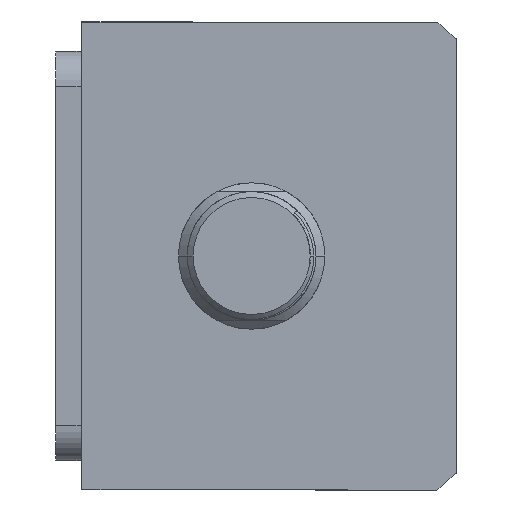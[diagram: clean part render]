
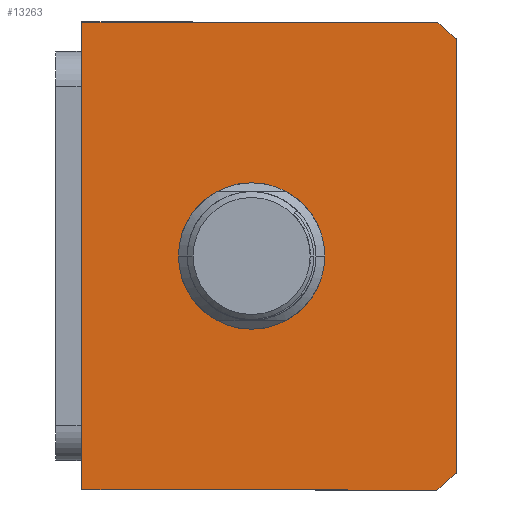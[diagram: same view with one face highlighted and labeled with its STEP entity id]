
A CAD part, front view. The second image highlights one B-rep face of the part: STEP entity #13263.
In plain terms, the highlighted planar face has unit normal (0, -1, 0) as drawn and (0, 0, -1) by its records, which use the part's own axes.
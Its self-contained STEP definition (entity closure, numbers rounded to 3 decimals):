
#417 = ORIENTED_EDGE ( 'NONE', *, *, #8394, .F. ) ;
#492 = EDGE_CURVE ( 'NONE', #10972, #14606, #1382, .T. ) ;
#854 = CARTESIAN_POINT ( 'NONE',  ( 37.094, -32., 0. ) ) ;
#878 = CARTESIAN_POINT ( 'NONE',  ( -40., 32., 0. ) ) ;
#1213 = DIRECTION ( 'NONE',  ( 0., -1., 0. ) ) ;
#1382 = LINE ( 'NONE', #15050, #4989 ) ;
#1586 = AXIS2_PLACEMENT_3D ( 'NONE', #12572, #4344, #13959 ) ;
#2137 = VERTEX_POINT ( 'NONE', #854 ) ;
#2349 = DIRECTION ( 'NONE',  ( 1., 0., 0. ) ) ;
#2425 = LINE ( 'NONE', #878, #9275 ) ;
#3155 = CARTESIAN_POINT ( 'NONE',  ( -40., -28.639, 0. ) ) ;
#3187 = CARTESIAN_POINT ( 'NONE',  ( -37.094, -32., 0. ) ) ;
#3334 = CARTESIAN_POINT ( 'NONE',  ( 0., 3., 0. ) ) ;
#3348 = EDGE_LOOP ( 'NONE', ( #417, #8195, #10201, #12255, #8104, #6005 ) ) ;
#3933 = EDGE_CURVE ( 'NONE', #6528, #10663, #5692, .T. ) ;
#4203 = PLANE ( 'NONE',  #7407 ) ;
#4344 = DIRECTION ( 'NONE',  ( 0., 0., 1. ) ) ;
#4690 = DIRECTION ( 'NONE',  ( 1., 0., 0. ) ) ;
#4989 = VECTOR ( 'NONE', #1213, 1000. ) ;
#4994 = CIRCLE ( 'NONE', #7419, 51. ) ;
#5407 = EDGE_CURVE ( 'NONE', #15996, #2137, #6305, .T. ) ;
#5412 = EDGE_LOOP ( 'NONE', ( #14639, #13748 ) ) ;
#5692 = CIRCLE ( 'NONE', #6740, 12.5 ) ;
#5950 = CARTESIAN_POINT ( 'NONE',  ( 0., 3., 0. ) ) ;
#6005 = ORIENTED_EDGE ( 'NONE', *, *, #5407, .F. ) ;
#6305 = LINE ( 'NONE', #10555, #16816 ) ;
#6528 = VERTEX_POINT ( 'NONE', #8505 ) ;
#6740 = AXIS2_PLACEMENT_3D ( 'NONE', #5950, #15529, #7315 ) ;
#6803 = EDGE_CURVE ( 'NONE', #15453, #10972, #2425, .T. ) ;
#6960 = DIRECTION ( 'NONE',  ( 1., 0., 0. ) ) ;
#7052 = CARTESIAN_POINT ( 'NONE',  ( -12.5, 3., 0. ) ) ;
#7228 = CARTESIAN_POINT ( 'NONE',  ( 40., 32., 0. ) ) ;
#7315 = DIRECTION ( 'NONE',  ( 1., 0., 0. ) ) ;
#7407 = AXIS2_PLACEMENT_3D ( 'NONE', #12377, #15177, #6960 ) ;
#7419 = AXIS2_PLACEMENT_3D ( 'NONE', #3334, #12921, #4690 ) ;
#7592 = CARTESIAN_POINT ( 'NONE',  ( 0., 3., 0. ) ) ;
#7881 = VECTOR ( 'NONE', #16001, 1000. ) ;
#8104 = ORIENTED_EDGE ( 'NONE', *, *, #8520, .F. ) ;
#8195 = ORIENTED_EDGE ( 'NONE', *, *, #492, .F. ) ;
#8394 = EDGE_CURVE ( 'NONE', #14606, #15996, #4994, .T. ) ;
#8455 = CIRCLE ( 'NONE', #12933, 12.5 ) ;
#8505 = CARTESIAN_POINT ( 'NONE',  ( 12.5, 3., 0. ) ) ;
#8520 = EDGE_CURVE ( 'NONE', #2137, #17041, #11454, .T. ) ;
#8821 = FACE_BOUND ( 'NONE', #5412, .T. ) ;
#8978 = DIRECTION ( 'NONE',  ( 1., 0., 0. ) ) ;
#9275 = VECTOR ( 'NONE', #14846, 1000. ) ;
#9743 = FACE_OUTER_BOUND ( 'NONE', #3348, .T. ) ;
#10201 = ORIENTED_EDGE ( 'NONE', *, *, #6803, .F. ) ;
#10555 = CARTESIAN_POINT ( 'NONE',  ( -40., -32., 0. ) ) ;
#10663 = VERTEX_POINT ( 'NONE', #7052 ) ;
#10972 = VERTEX_POINT ( 'NONE', #16069 ) ;
#11454 = CIRCLE ( 'NONE', #1586, 51. ) ;
#11565 = CARTESIAN_POINT ( 'NONE',  ( 40., -28.639, 0. ) ) ;
#11935 = CARTESIAN_POINT ( 'NONE',  ( 40., 32., 0. ) ) ;
#11961 = LINE ( 'NONE', #11935, #7881 ) ;
#12255 = ORIENTED_EDGE ( 'NONE', *, *, #12990, .F. ) ;
#12377 = CARTESIAN_POINT ( 'NONE',  ( 0., 0., 0. ) ) ;
#12572 = CARTESIAN_POINT ( 'NONE',  ( 0., 3., 0. ) ) ;
#12921 = DIRECTION ( 'NONE',  ( 0., 0., 1. ) ) ;
#12933 = AXIS2_PLACEMENT_3D ( 'NONE', #7592, #17176, #8978 ) ;
#12990 = EDGE_CURVE ( 'NONE', #17041, #15453, #11961, .T. ) ;
#13263 = ADVANCED_FACE ( 'NONE', ( #8821, #9743 ), #4203, .F. ) ;
#13464 = EDGE_CURVE ( 'NONE', #10663, #6528, #8455, .T. ) ;
#13748 = ORIENTED_EDGE ( 'NONE', *, *, #13464, .T. ) ;
#13959 = DIRECTION ( 'NONE',  ( 1., 0., 0. ) ) ;
#14606 = VERTEX_POINT ( 'NONE', #3155 ) ;
#14639 = ORIENTED_EDGE ( 'NONE', *, *, #3933, .T. ) ;
#14846 = DIRECTION ( 'NONE',  ( -1., 0., 0. ) ) ;
#15050 = CARTESIAN_POINT ( 'NONE',  ( -40., 32., 0. ) ) ;
#15177 = DIRECTION ( 'NONE',  ( 0., 0., 1. ) ) ;
#15453 = VERTEX_POINT ( 'NONE', #7228 ) ;
#15529 = DIRECTION ( 'NONE',  ( 0., 0., 1. ) ) ;
#15996 = VERTEX_POINT ( 'NONE', #3187 ) ;
#16001 = DIRECTION ( 'NONE',  ( 0., 1., 0. ) ) ;
#16069 = CARTESIAN_POINT ( 'NONE',  ( -40., 32., 0. ) ) ;
#16816 = VECTOR ( 'NONE', #2349, 1000. ) ;
#17041 = VERTEX_POINT ( 'NONE', #11565 ) ;
#17176 = DIRECTION ( 'NONE',  ( 0., 0., 1. ) ) ;
